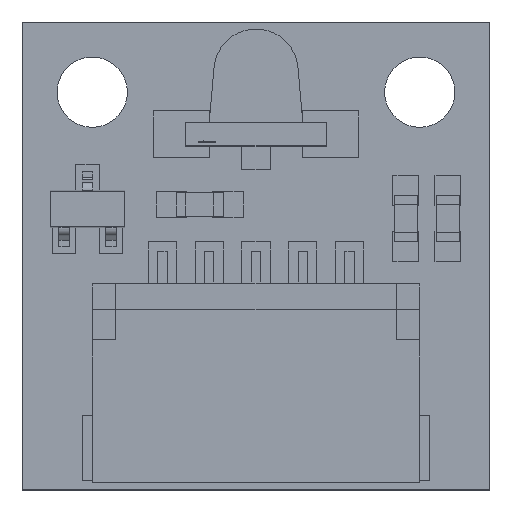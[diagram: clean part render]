
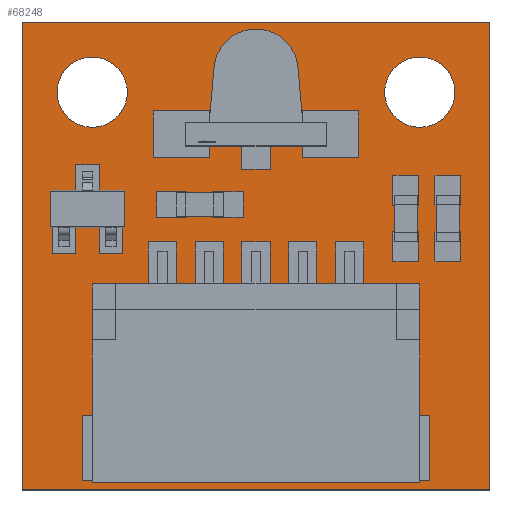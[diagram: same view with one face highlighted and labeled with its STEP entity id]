
A CAD part, top view. The second image highlights one B-rep face of the part: STEP entity #68248.
In plain terms, the highlighted planar face has unit normal (0, 0, 1).
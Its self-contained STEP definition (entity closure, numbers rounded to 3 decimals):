
#67772 = VERTEX_POINT('',#67773);
#67773 = CARTESIAN_POINT('',(15.,10.,0.6));
#67780 = PLANE('',#67781);
#67781 = AXIS2_PLACEMENT_3D('',#67782,#67783,#67784);
#67782 = CARTESIAN_POINT('',(15.,10.,0.));
#67783 = DIRECTION('',(0.,1.,0.));
#67784 = DIRECTION('',(1.,0.,0.));
#67792 = PLANE('',#67793);
#67793 = AXIS2_PLACEMENT_3D('',#67794,#67795,#67796);
#67794 = CARTESIAN_POINT('',(15.,20.,0.));
#67795 = DIRECTION('',(1.,0.,0.));
#67796 = DIRECTION('',(0.,-1.,0.));
#67804 = EDGE_CURVE('',#67772,#67805,#67807,.T.);
#67805 = VERTEX_POINT('',#67806);
#67806 = CARTESIAN_POINT('',(25.,10.,0.6));
#67807 = SURFACE_CURVE('',#67808,(#67812,#67819),.PCURVE_S1.);
#67808 = LINE('',#67809,#67810);
#67809 = CARTESIAN_POINT('',(15.,10.,0.6));
#67810 = VECTOR('',#67811,1.);
#67811 = DIRECTION('',(1.,0.,0.));
#67812 = PCURVE('',#67780,#67813);
#67813 = DEFINITIONAL_REPRESENTATION('',(#67814),#67818);
#67814 = LINE('',#67815,#67816);
#67815 = CARTESIAN_POINT('',(0.,-0.6));
#67816 = VECTOR('',#67817,1.);
#67817 = DIRECTION('',(1.,0.));
#67818 = ( GEOMETRIC_REPRESENTATION_CONTEXT(2) 
PARAMETRIC_REPRESENTATION_CONTEXT() REPRESENTATION_CONTEXT('2D SPACE',''
  ) );
#67819 = PCURVE('',#67820,#67825);
#67820 = PLANE('',#67821);
#67821 = AXIS2_PLACEMENT_3D('',#67822,#67823,#67824);
#67822 = CARTESIAN_POINT('',(20.,15.,0.6));
#67823 = DIRECTION('',(0.,0.,1.));
#67824 = DIRECTION('',(1.,0.,-0.));
#67825 = DEFINITIONAL_REPRESENTATION('',(#67826),#67830);
#67826 = LINE('',#67827,#67828);
#67827 = CARTESIAN_POINT('',(-5.,-5.));
#67828 = VECTOR('',#67829,1.);
#67829 = DIRECTION('',(1.,0.));
#67830 = ( GEOMETRIC_REPRESENTATION_CONTEXT(2) 
PARAMETRIC_REPRESENTATION_CONTEXT() REPRESENTATION_CONTEXT('2D SPACE',''
  ) );
#67848 = PLANE('',#67849);
#67849 = AXIS2_PLACEMENT_3D('',#67850,#67851,#67852);
#67850 = CARTESIAN_POINT('',(25.,10.,0.));
#67851 = DIRECTION('',(-1.,0.,0.));
#67852 = DIRECTION('',(0.,1.,0.));
#67892 = VERTEX_POINT('',#67893);
#67893 = CARTESIAN_POINT('',(15.,20.,0.6));
#67907 = PLANE('',#67908);
#67908 = AXIS2_PLACEMENT_3D('',#67909,#67910,#67911);
#67909 = CARTESIAN_POINT('',(25.,20.,0.));
#67910 = DIRECTION('',(0.,-1.,0.));
#67911 = DIRECTION('',(-1.,0.,0.));
#67919 = EDGE_CURVE('',#67892,#67772,#67920,.T.);
#67920 = SURFACE_CURVE('',#67921,(#67925,#67932),.PCURVE_S1.);
#67921 = LINE('',#67922,#67923);
#67922 = CARTESIAN_POINT('',(15.,20.,0.6));
#67923 = VECTOR('',#67924,1.);
#67924 = DIRECTION('',(0.,-1.,0.));
#67925 = PCURVE('',#67792,#67926);
#67926 = DEFINITIONAL_REPRESENTATION('',(#67927),#67931);
#67927 = LINE('',#67928,#67929);
#67928 = CARTESIAN_POINT('',(0.,-0.6));
#67929 = VECTOR('',#67930,1.);
#67930 = DIRECTION('',(1.,0.));
#67931 = ( GEOMETRIC_REPRESENTATION_CONTEXT(2) 
PARAMETRIC_REPRESENTATION_CONTEXT() REPRESENTATION_CONTEXT('2D SPACE',''
  ) );
#67932 = PCURVE('',#67820,#67933);
#67933 = DEFINITIONAL_REPRESENTATION('',(#67934),#67938);
#67934 = LINE('',#67935,#67936);
#67935 = CARTESIAN_POINT('',(-5.,5.));
#67936 = VECTOR('',#67937,1.);
#67937 = DIRECTION('',(0.,-1.));
#67938 = ( GEOMETRIC_REPRESENTATION_CONTEXT(2) 
PARAMETRIC_REPRESENTATION_CONTEXT() REPRESENTATION_CONTEXT('2D SPACE',''
  ) );
#67966 = EDGE_CURVE('',#67805,#67967,#67969,.T.);
#67967 = VERTEX_POINT('',#67968);
#67968 = CARTESIAN_POINT('',(25.,20.,0.6));
#67969 = SURFACE_CURVE('',#67970,(#67974,#67981),.PCURVE_S1.);
#67970 = LINE('',#67971,#67972);
#67971 = CARTESIAN_POINT('',(25.,10.,0.6));
#67972 = VECTOR('',#67973,1.);
#67973 = DIRECTION('',(0.,1.,0.));
#67974 = PCURVE('',#67848,#67975);
#67975 = DEFINITIONAL_REPRESENTATION('',(#67976),#67980);
#67976 = LINE('',#67977,#67978);
#67977 = CARTESIAN_POINT('',(0.,-0.6));
#67978 = VECTOR('',#67979,1.);
#67979 = DIRECTION('',(1.,0.));
#67980 = ( GEOMETRIC_REPRESENTATION_CONTEXT(2) 
PARAMETRIC_REPRESENTATION_CONTEXT() REPRESENTATION_CONTEXT('2D SPACE',''
  ) );
#67981 = PCURVE('',#67820,#67982);
#67982 = DEFINITIONAL_REPRESENTATION('',(#67983),#67987);
#67983 = LINE('',#67984,#67985);
#67984 = CARTESIAN_POINT('',(5.,-5.));
#67985 = VECTOR('',#67986,1.);
#67986 = DIRECTION('',(0.,1.));
#67987 = ( GEOMETRIC_REPRESENTATION_CONTEXT(2) 
PARAMETRIC_REPRESENTATION_CONTEXT() REPRESENTATION_CONTEXT('2D SPACE',''
  ) );
#68037 = EDGE_CURVE('',#67967,#67892,#68038,.T.);
#68038 = SURFACE_CURVE('',#68039,(#68043,#68050),.PCURVE_S1.);
#68039 = LINE('',#68040,#68041);
#68040 = CARTESIAN_POINT('',(25.,20.,0.6));
#68041 = VECTOR('',#68042,1.);
#68042 = DIRECTION('',(-1.,0.,0.));
#68043 = PCURVE('',#67907,#68044);
#68044 = DEFINITIONAL_REPRESENTATION('',(#68045),#68049);
#68045 = LINE('',#68046,#68047);
#68046 = CARTESIAN_POINT('',(0.,-0.6));
#68047 = VECTOR('',#68048,1.);
#68048 = DIRECTION('',(1.,0.));
#68049 = ( GEOMETRIC_REPRESENTATION_CONTEXT(2) 
PARAMETRIC_REPRESENTATION_CONTEXT() REPRESENTATION_CONTEXT('2D SPACE',''
  ) );
#68050 = PCURVE('',#67820,#68051);
#68051 = DEFINITIONAL_REPRESENTATION('',(#68052),#68056);
#68052 = LINE('',#68053,#68054);
#68053 = CARTESIAN_POINT('',(5.,5.));
#68054 = VECTOR('',#68055,1.);
#68055 = DIRECTION('',(-1.,0.));
#68056 = ( GEOMETRIC_REPRESENTATION_CONTEXT(2) 
PARAMETRIC_REPRESENTATION_CONTEXT() REPRESENTATION_CONTEXT('2D SPACE',''
  ) );
#68093 = CYLINDRICAL_SURFACE('',#68094,0.751);
#68094 = AXIS2_PLACEMENT_3D('',#68095,#68096,#68097);
#68095 = CARTESIAN_POINT('',(16.5,18.5,0.));
#68096 = DIRECTION('',(-0.,-0.,-1.));
#68097 = DIRECTION('',(1.,0.,0.));
#68113 = VERTEX_POINT('',#68114);
#68114 = CARTESIAN_POINT('',(17.251,18.5,0.6));
#68135 = EDGE_CURVE('',#68113,#68113,#68136,.T.);
#68136 = SURFACE_CURVE('',#68137,(#68142,#68149),.PCURVE_S1.);
#68137 = CIRCLE('',#68138,0.751);
#68138 = AXIS2_PLACEMENT_3D('',#68139,#68140,#68141);
#68139 = CARTESIAN_POINT('',(16.5,18.5,0.6));
#68140 = DIRECTION('',(0.,0.,1.));
#68141 = DIRECTION('',(1.,0.,-0.));
#68142 = PCURVE('',#68093,#68143);
#68143 = DEFINITIONAL_REPRESENTATION('',(#68144),#68148);
#68144 = LINE('',#68145,#68146);
#68145 = CARTESIAN_POINT('',(6.283,-0.6));
#68146 = VECTOR('',#68147,1.);
#68147 = DIRECTION('',(-1.,0.));
#68148 = ( GEOMETRIC_REPRESENTATION_CONTEXT(2) 
PARAMETRIC_REPRESENTATION_CONTEXT() REPRESENTATION_CONTEXT('2D SPACE',''
  ) );
#68149 = PCURVE('',#67820,#68150);
#68150 = DEFINITIONAL_REPRESENTATION('',(#68151),#68155);
#68151 = CIRCLE('',#68152,0.751);
#68152 = AXIS2_PLACEMENT_2D('',#68153,#68154);
#68153 = CARTESIAN_POINT('',(-3.5,3.5));
#68154 = DIRECTION('',(1.,0.));
#68155 = ( GEOMETRIC_REPRESENTATION_CONTEXT(2) 
PARAMETRIC_REPRESENTATION_CONTEXT() REPRESENTATION_CONTEXT('2D SPACE',''
  ) );
#68171 = CYLINDRICAL_SURFACE('',#68172,0.751);
#68172 = AXIS2_PLACEMENT_3D('',#68173,#68174,#68175);
#68173 = CARTESIAN_POINT('',(23.5,18.5,0.));
#68174 = DIRECTION('',(-0.,-0.,-1.));
#68175 = DIRECTION('',(1.,0.,0.));
#68191 = VERTEX_POINT('',#68192);
#68192 = CARTESIAN_POINT('',(24.251,18.5,0.6));
#68213 = EDGE_CURVE('',#68191,#68191,#68214,.T.);
#68214 = SURFACE_CURVE('',#68215,(#68220,#68227),.PCURVE_S1.);
#68215 = CIRCLE('',#68216,0.751);
#68216 = AXIS2_PLACEMENT_3D('',#68217,#68218,#68219);
#68217 = CARTESIAN_POINT('',(23.5,18.5,0.6));
#68218 = DIRECTION('',(0.,0.,1.));
#68219 = DIRECTION('',(1.,0.,-0.));
#68220 = PCURVE('',#68171,#68221);
#68221 = DEFINITIONAL_REPRESENTATION('',(#68222),#68226);
#68222 = LINE('',#68223,#68224);
#68223 = CARTESIAN_POINT('',(6.283,-0.6));
#68224 = VECTOR('',#68225,1.);
#68225 = DIRECTION('',(-1.,0.));
#68226 = ( GEOMETRIC_REPRESENTATION_CONTEXT(2) 
PARAMETRIC_REPRESENTATION_CONTEXT() REPRESENTATION_CONTEXT('2D SPACE',''
  ) );
#68227 = PCURVE('',#67820,#68228);
#68228 = DEFINITIONAL_REPRESENTATION('',(#68229),#68233);
#68229 = CIRCLE('',#68230,0.751);
#68230 = AXIS2_PLACEMENT_2D('',#68231,#68232);
#68231 = CARTESIAN_POINT('',(3.5,3.5));
#68232 = DIRECTION('',(1.,0.));
#68233 = ( GEOMETRIC_REPRESENTATION_CONTEXT(2) 
PARAMETRIC_REPRESENTATION_CONTEXT() REPRESENTATION_CONTEXT('2D SPACE',''
  ) );
#68248 = ADVANCED_FACE('',(#68249,#68255,#68258),#67820,.T.);
#68249 = FACE_BOUND('',#68250,.T.);
#68250 = EDGE_LOOP('',(#68251,#68252,#68253,#68254));
#68251 = ORIENTED_EDGE('',*,*,#67804,.T.);
#68252 = ORIENTED_EDGE('',*,*,#67966,.T.);
#68253 = ORIENTED_EDGE('',*,*,#68037,.T.);
#68254 = ORIENTED_EDGE('',*,*,#67919,.T.);
#68255 = FACE_BOUND('',#68256,.T.);
#68256 = EDGE_LOOP('',(#68257));
#68257 = ORIENTED_EDGE('',*,*,#68135,.F.);
#68258 = FACE_BOUND('',#68259,.T.);
#68259 = EDGE_LOOP('',(#68260));
#68260 = ORIENTED_EDGE('',*,*,#68213,.F.);
